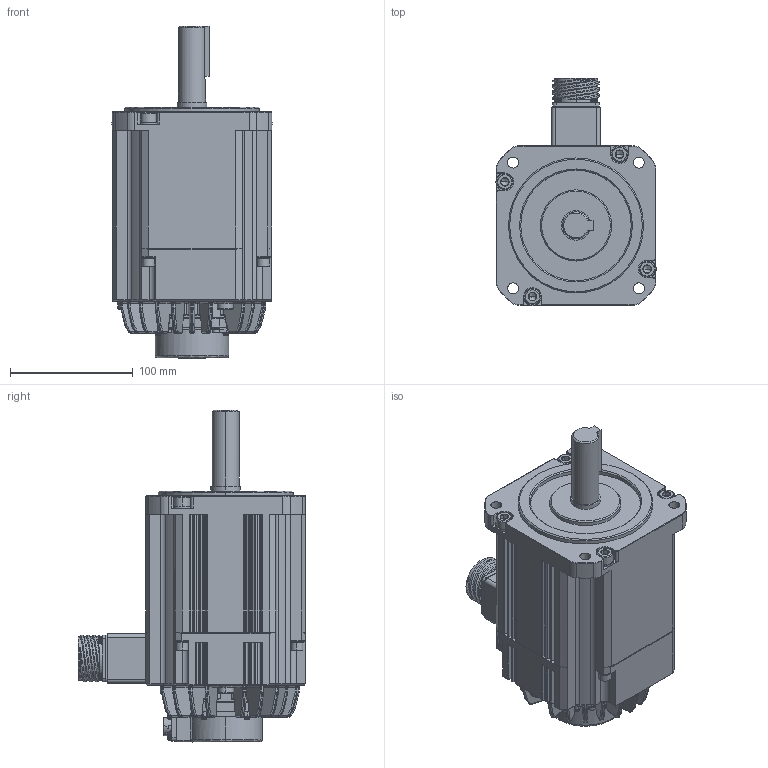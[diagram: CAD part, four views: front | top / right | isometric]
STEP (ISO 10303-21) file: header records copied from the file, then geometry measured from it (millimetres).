
FILE_DESCRIPTION (( 'STEP AP203' ), '1' );
FILE_NAME ('TSM3510N2375E722‘•”z.STEP', '2018-06-29T04:52:30', ( '' ), ( '' ), 'SwSTEP 2.0', 'SolidWorks 2017', '' );
FILE_SCHEMA (( 'CONFIG_CONTROL_DESIGN' ));
Products named in the file (1): TSM3510N2375E722装配
Bounding box: 130.5 x 185.2 x 270.5 mm (x, y, z)
Volume: 2558449.1 mm3; surface area: 183720.5 mm2
Topology: 1 solids, 24 shells, 3232 faces, 8125 edges, 4945 vertices
Faces by surface type: bspline 1088, plane 1061, cylinder 826, cone 257
Entity records: 158359 total; most frequent: CARTESIAN_POINT 89744, ORIENTED_EDGE 16040, DIRECTION 11637, EDGE_CURVE 8020, VERTEX_POINT 4945, AXIS2_PLACEMENT_3D 3987, LINE 3663, VECTOR 3663
